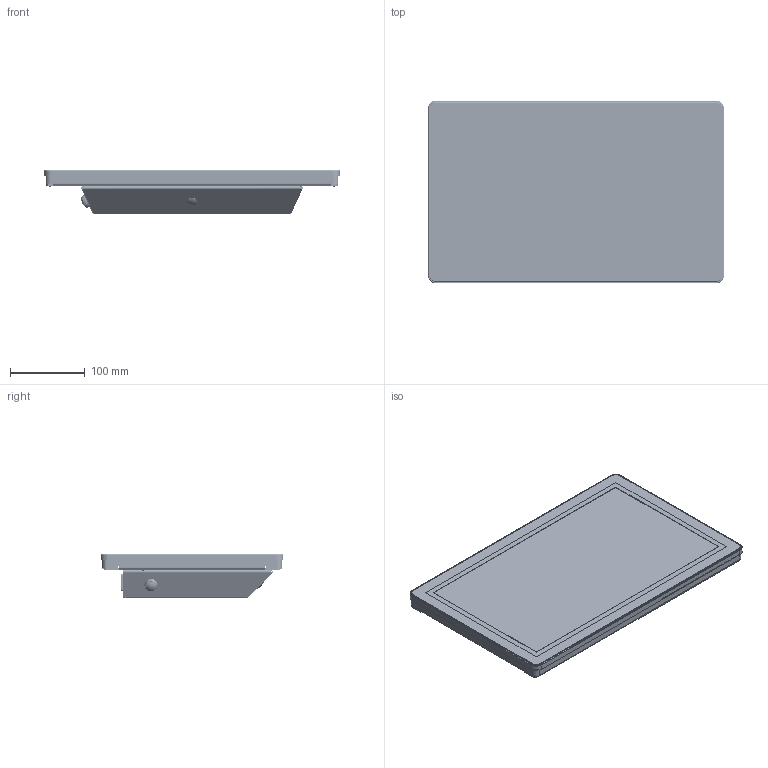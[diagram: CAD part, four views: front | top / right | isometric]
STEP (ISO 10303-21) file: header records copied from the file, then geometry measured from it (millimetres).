
FILE_DESCRIPTION (( 'STEP AP203' ), '1' );
FILE_NAME ('V156S-N2.STEP', '2026-08-03T14:57:25', ( '' ), ( '' ), 'SwSTEP 2.0', 'SolidWorks 2025', '' );
FILE_SCHEMA (( 'CONFIG_CONTROL_DESIGN' ));
Length unit declared in the file: millimetre
Products named in the file (31): Afdekkap 12mm; FH4-M3-12 Inpersdraadeind; V-UNI-ALN35 Connector panel; Celrubber 2x6^V156S-00 Assembly; V156S-10 Behuizing; S156S-10 Bezel; GPC-156G-PD-G03B.; ITW 59111_locknut; ITW 59111; ALN-35 met heatspreader; 220V IEC snap-in input socket 539-2017; V156S-11 Montagestrip; V-UNIS-01 Backcover assembly_ALN35; ITW 59111_button; SSD-02 Bracket hoog; Meanwell IRM-90-12ST; RS232_panelmount_RS 446-462; V156S-N2; V-UNIS-10 Backcover; ALN35-10 Heatspreader; ITW 59111_ring; TEST BS-M4-8 RVS blinde inpersafstandsteun; ALN35-Without_heatsink; SO-3,5M3-6-ZI Inpersafstandsteun; V-serie - M3 x 4 - Z --- 3N_DIN 967 - M3 x 4 - Z --- 3N; Part3^V156S-00 Assembly; FH-M4-12-ZI Inpersdraadeind; 2.5'''' HDD; G156HCE-L01
Assembly tree (49 placements, depth 4):
  V156S-N2
    V156S-10 Behuizing
    V156S-11 Montagestrip  x2
      V156S-11 Montagestrip
      SO-3,5M3-6-ZI Inpersafstandsteun
    GPC-156G-PD-G03B.
    S156S-10 Bezel
    G156HCE-L01
    V-UNIS-01 Backcover assembly_ALN35
      V-UNIS-10 Backcover
        V-UNIS-10 Backcover
        TEST BS-M4-8 RVS blinde inpersafstandsteun  x4
        FH-M4-12-ZI Inpersdraadeind  x8
        FH4-M3-12 Inpersdraadeind  x4
      Meanwell IRM-90-12ST
      ITW 59111
        ITW 59111_button
        ITW 59111_ring
        ITW 59111_locknut
      220V IEC snap-in input socket 539-2017
      RS232_panelmount_RS 446-462  x2
      ALN-35 met heatspreader
        ALN35-10 Heatspreader
        ALN35-Without_heatsink
      SSD-02 Bracket hoog
      2.5'''' HDD
      V-UNI-ALN35 Connector panel
      Afdekkap 12mm
    Celrubber 2x6^V156S-00 Assembly
    Afdekkap 12mm
    V-serie - M3 x 4 - Z --- 3N_DIN 967 - M3 x 4 - Z --- 3N  x3
    Part3^V156S-00 Assembly
Bounding box: 395 x 244 x 59.85 mm (x, y, z)
Volume: 1628569 mm3; surface area: 975384.9 mm2
Topology: 48 solids, 312 shells, 5237 faces, 24338 edges, 19068 vertices
Faces by surface type: plane 3374, cylinder 1351, bspline 319, cone 97, torus 77, sphere 19
Full cylindrical faces by diameter (mm): 0.92 x18, 1.397 x2, 1.8 x3, 2.5 x23, 3 x15, 3.05 x4, 3.2 x6, 3.4 x8, 3.5 x46, 4 x12, 4.1 x8, 4.5 x4, 4.6 x4, 5 x1, 5.2 x5, 5.4 x4, 5.49 x4, 5.5 x3, 5.9 x8, 7.1 x4, 7.22 x4, 9 x1, 11 x1, 11.43 x1, 12 x3, 13.5 x2, 13.9 x1, 14.605 x1, 17.526 x1
Entity records: 270599 total; most frequent: CARTESIAN_POINT 94935, ORIENTED_EDGE 32699, DIRECTION 30412, EDGE_CURVE 23339, VERTEX_POINT 18533, VECTOR 13516, LINE 13516, AXIS2_PLACEMENT_3D 8448
